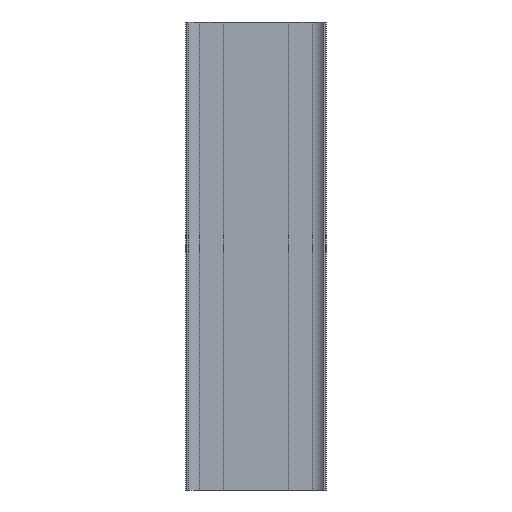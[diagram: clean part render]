
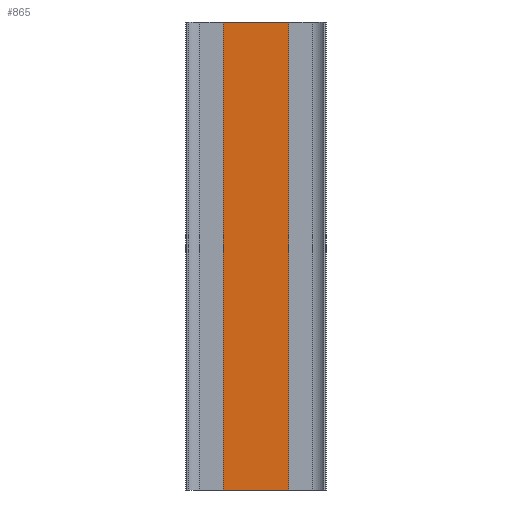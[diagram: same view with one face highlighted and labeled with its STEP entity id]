
A CAD part, front view. The second image highlights one B-rep face of the part: STEP entity #865.
In plain terms, the highlighted planar face has unit normal (0, -1, 0).
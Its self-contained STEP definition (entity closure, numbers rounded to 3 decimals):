
#28 = FACE_OUTER_BOUND ( 'NONE', #371, .T. ) ;
#217 = CARTESIAN_POINT ( 'NONE',  ( -9.5, 12.7, 0. ) ) ;
#238 = DIRECTION ( 'NONE',  ( 0., 0., 1. ) ) ;
#240 = VECTOR ( 'NONE', #596, 1000. ) ;
#268 = VERTEX_POINT ( 'NONE', #732 ) ;
#302 = VECTOR ( 'NONE', #238, 1000. ) ;
#371 = EDGE_LOOP ( 'NONE', ( #541, #632, #1198, #412 ) ) ;
#412 = ORIENTED_EDGE ( 'NONE', *, *, #703, .T. ) ;
#413 = CARTESIAN_POINT ( 'NONE',  ( -9.5, 12.7, 0. ) ) ;
#472 = LINE ( 'NONE', #217, #240 ) ;
#476 = DIRECTION ( 'NONE',  ( 0., 1., 0. ) ) ;
#503 = LINE ( 'NONE', #413, #593 ) ;
#541 = ORIENTED_EDGE ( 'NONE', *, *, #1107, .T. ) ;
#593 = VECTOR ( 'NONE', #1080, 1000. ) ;
#596 = DIRECTION ( 'NONE',  ( -1., 0., 0. ) ) ;
#612 = DIRECTION ( 'NONE',  ( -1., 0., 0. ) ) ;
#632 = ORIENTED_EDGE ( 'NONE', *, *, #657, .F. ) ;
#655 = DIRECTION ( 'NONE',  ( -1., 0., 0. ) ) ;
#657 = EDGE_CURVE ( 'NONE', #268, #727, #503, .T. ) ;
#661 = VECTOR ( 'NONE', #612, 1000. ) ;
#667 = CARTESIAN_POINT ( 'NONE',  ( 4.5, 12.7, 0. ) ) ;
#703 = EDGE_CURVE ( 'NONE', #882, #831, #947, .T. ) ;
#704 = CARTESIAN_POINT ( 'NONE',  ( 4.5, 12.7, 0. ) ) ;
#727 = VERTEX_POINT ( 'NONE', #983 ) ;
#732 = CARTESIAN_POINT ( 'NONE',  ( -9.5, 12.7, 0. ) ) ;
#773 = CARTESIAN_POINT ( 'NONE',  ( -9.5, 12.7, 0. ) ) ;
#831 = VERTEX_POINT ( 'NONE', #1123 ) ;
#865 = ADVANCED_FACE ( 'NONE', ( #28 ), #871, .F. ) ;
#871 = PLANE ( 'NONE',  #1086 ) ;
#882 = VERTEX_POINT ( 'NONE', #667 ) ;
#931 = EDGE_CURVE ( 'NONE', #882, #268, #472, .T. ) ;
#947 = LINE ( 'NONE', #704, #302 ) ;
#983 = CARTESIAN_POINT ( 'NONE',  ( -9.5, 12.7, 100. ) ) ;
#1002 = CARTESIAN_POINT ( 'NONE',  ( -9.5, 12.7, 100. ) ) ;
#1071 = LINE ( 'NONE', #1002, #661 ) ;
#1080 = DIRECTION ( 'NONE',  ( 0., 0., 1. ) ) ;
#1086 = AXIS2_PLACEMENT_3D ( 'NONE', #773, #476, #655 ) ;
#1107 = EDGE_CURVE ( 'NONE', #831, #727, #1071, .T. ) ;
#1123 = CARTESIAN_POINT ( 'NONE',  ( 4.5, 12.7, 100. ) ) ;
#1198 = ORIENTED_EDGE ( 'NONE', *, *, #931, .F. ) ;
